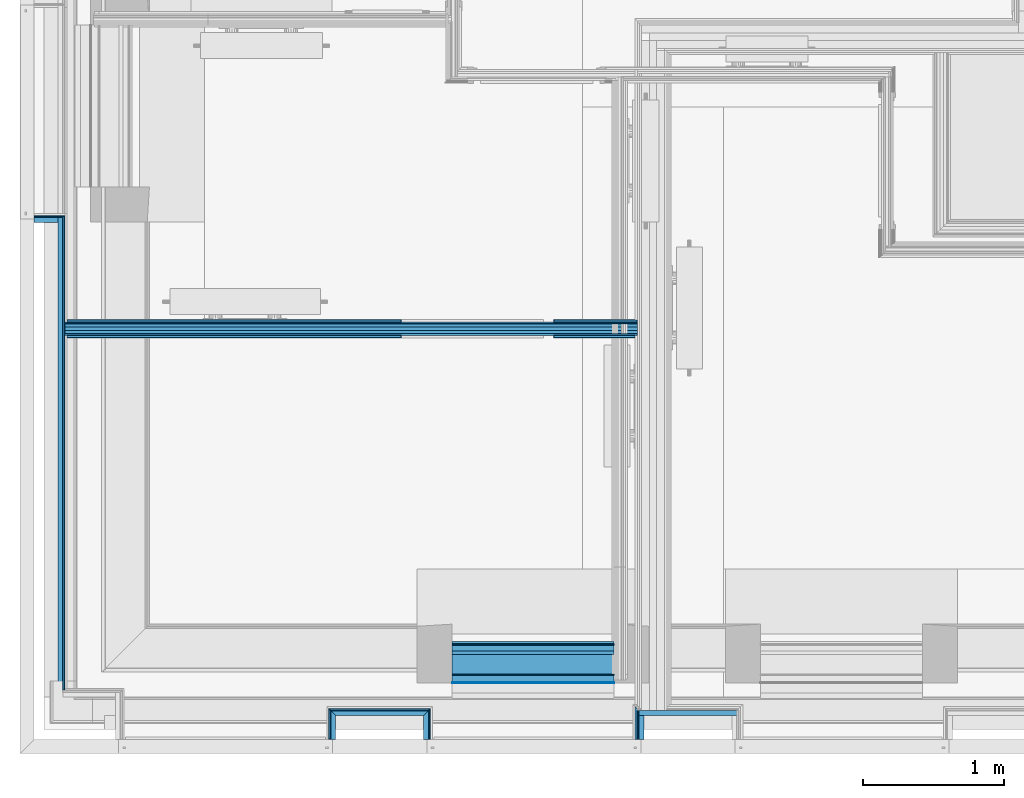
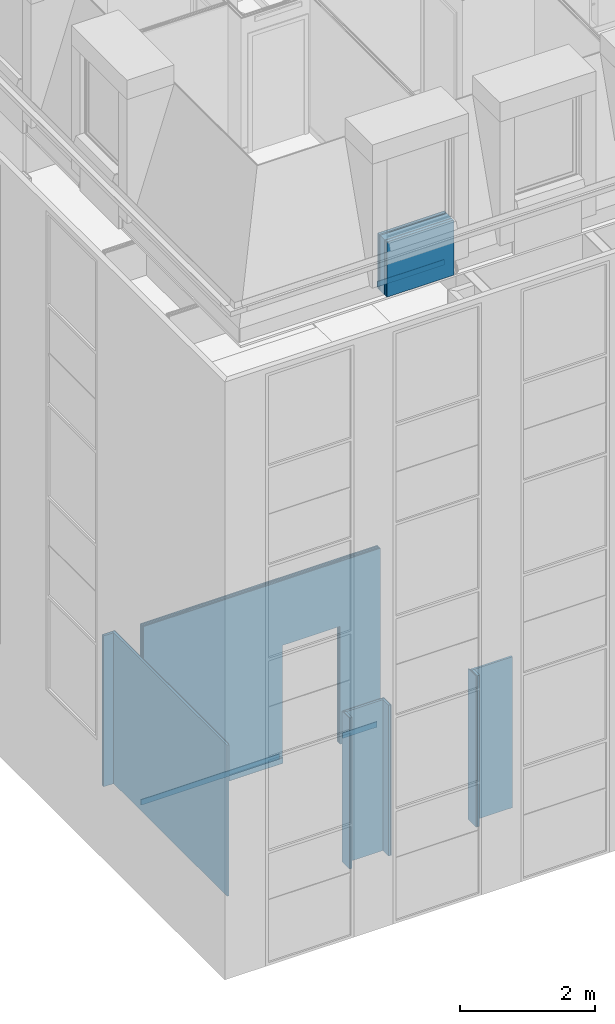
# One storey, part 13 of 169: 29 building element parts, 1 opening, 9 elements without a shape of their own.
"""IFC2X3 building model written with IfcOpenShell, lengths in metres."""

from ifc_helpers import new_model, entity, si_unit, converted_unit, derived_unit, money_unit, direction, frame, frame_2d, origin_with_axes, place, context, subcontext, project, spatial, polyline, rectangle, outline, extrude, material, type_object, element, aggregate, save


model = new_model("IFC2X3")

# Units and contexts
model_context = context("Model", 3, precision=1e-05, world=origin_with_axes(), true_north=direction((0.0, 1.0)))
body_context = subcontext(model_context, "Body", "Model", "MODEL_VIEW", scale=1.0)
ifc_project = project(units=[si_unit("LENGTHUNIT", "METRE"), si_unit("AREAUNIT", "SQUARE_METRE"), si_unit("VOLUMEUNIT", "CUBIC_METRE"), si_unit("ABSORBEDDOSEUNIT", "GRAY"), si_unit("AMOUNTOFSUBSTANCEUNIT", "MOLE"), si_unit("DOSEEQUIVALENTUNIT", "SIEVERT"), si_unit("ELECTRICCAPACITANCEUNIT", "FARAD"), si_unit("ELECTRICCHARGEUNIT", "COULOMB"), si_unit("ELECTRICCONDUCTANCEUNIT", "SIEMENS"), si_unit("ELECTRICCURRENTUNIT", "AMPERE"), si_unit("ELECTRICRESISTANCEUNIT", "OHM"), si_unit("ELECTRICVOLTAGEUNIT", "VOLT"), si_unit("ENERGYUNIT", "JOULE"), si_unit("FORCEUNIT", "NEWTON"), si_unit("FREQUENCYUNIT", "HERTZ"), si_unit("ILLUMINANCEUNIT", "LUX"), si_unit("INDUCTANCEUNIT", "HENRY"), si_unit("LUMINOUSFLUXUNIT", "LUMEN"), si_unit("LUMINOUSINTENSITYUNIT", "CANDELA"), si_unit("MAGNETICFLUXDENSITYUNIT", "TESLA"), si_unit("MAGNETICFLUXUNIT", "WEBER"), si_unit("MASSUNIT", "GRAM"), converted_unit("PLANEANGLEUNIT", "degree", entity("IfcReal", 0.0174532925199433), si_unit("PLANEANGLEUNIT", "RADIAN"), dimensions=[0, 0, 0, 0, 0, 0, 0]), si_unit("POWERUNIT", "WATT"), si_unit("PRESSUREUNIT", "PASCAL"), si_unit("RADIOACTIVITYUNIT", "BECQUEREL"), si_unit("SOLIDANGLEUNIT", "STERADIAN"), si_unit("THERMODYNAMICTEMPERATUREUNIT", "KELVIN"), si_unit("TIMEUNIT", "SECOND"), derived_unit("ACCELERATIONUNIT", [(si_unit("LENGTHUNIT", "METRE"), 1), (si_unit("TIMEUNIT", "SECOND"), -2)]), derived_unit("ANGULARVELOCITYUNIT", [(converted_unit("PLANEANGLEUNIT", "degree", entity("IfcReal", 0.0174532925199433), si_unit("PLANEANGLEUNIT", "RADIAN"), dimensions=[0, 0, 0, 0, 0, 0, 0]), 1), (si_unit("TIMEUNIT", "SECOND"), -1)]), derived_unit("CURVATUREUNIT", [(converted_unit("PLANEANGLEUNIT", "degree", entity("IfcReal", 0.0174532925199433), si_unit("PLANEANGLEUNIT", "RADIAN"), dimensions=[0, 0, 0, 0, 0, 0, 0]), 1), (si_unit("LENGTHUNIT", "METRE"), -1)]), derived_unit("DYNAMICVISCOSITYUNIT", [(si_unit("PRESSUREUNIT", "PASCAL"), 1), (si_unit("TIMEUNIT", "SECOND"), 1)]), derived_unit("HEATFLUXDENSITYUNIT", [(si_unit("POWERUNIT", "WATT"), 1), (si_unit("LENGTHUNIT", "METRE"), -2)]), derived_unit("HEATINGVALUEUNIT", [(si_unit("ENERGYUNIT", "JOULE"), 1), (si_unit("MASSUNIT", "GRAM"), -1)]), derived_unit("INTEGERCOUNTRATEUNIT", [(si_unit("TIMEUNIT", "SECOND"), -1)]), derived_unit("IONCONCENTRATIONUNIT", [(si_unit("MASSUNIT", "GRAM"), 1), (si_unit("VOLUMEUNIT", "CUBIC_METRE"), -1)]), derived_unit("ISOTHERMALMOISTURECAPACITYUNIT", [(si_unit("VOLUMEUNIT", "CUBIC_METRE"), 1), (si_unit("MASSUNIT", "GRAM"), -1)]), derived_unit("KINEMATICVISCOSITYUNIT", [(si_unit("AREAUNIT", "SQUARE_METRE"), 1), (si_unit("TIMEUNIT", "SECOND"), -1)]), derived_unit("LINEARFORCEUNIT", [(si_unit("FORCEUNIT", "NEWTON"), 1), (si_unit("LENGTHUNIT", "METRE"), -1)]), derived_unit("LINEARMOMENTUNIT", [(si_unit("FORCEUNIT", "NEWTON"), 1), (si_unit("LENGTHUNIT", "METRE"), -1)]), derived_unit("LINEARSTIFFNESSUNIT", [(si_unit("FORCEUNIT", "NEWTON"), 1), (si_unit("LENGTHUNIT", "METRE"), -1)]), derived_unit("LINEARVELOCITYUNIT", [(si_unit("LENGTHUNIT", "METRE"), 1), (si_unit("TIMEUNIT", "SECOND"), -1)]), derived_unit("LUMINOUSINTENSITYDISTRIBUTIONUNIT", [(si_unit("LUMINOUSINTENSITYUNIT", "CANDELA"), 1), (si_unit("LUMINOUSFLUXUNIT", "LUMEN"), -1)]), derived_unit("MASSDENSITYUNIT", [(si_unit("MASSUNIT", "GRAM"), 1), (si_unit("VOLUMEUNIT", "CUBIC_METRE"), -1)]), derived_unit("MASSFLOWRATEUNIT", [(si_unit("MASSUNIT", "GRAM"), 1), (si_unit("TIMEUNIT", "SECOND"), -1)]), derived_unit("MASSPERLENGTHUNIT", [(si_unit("MASSUNIT", "GRAM"), 1), (si_unit("LENGTHUNIT", "METRE"), -1)]), derived_unit("MODULUSOFELASTICITYUNIT", [(si_unit("FORCEUNIT", "NEWTON"), 1), (si_unit("AREAUNIT", "SQUARE_METRE"), -1)]), derived_unit("MODULUSOFLINEARSUBGRADEREACTIONUNIT", [(si_unit("FORCEUNIT", "NEWTON"), 1), (si_unit("LENGTHUNIT", "METRE"), -2)]), derived_unit("MODULUSOFROTATIONALSUBGRADEREACTIONUNIT", [(si_unit("FORCEUNIT", "NEWTON"), 1), (si_unit("LENGTHUNIT", "METRE"), 1)]), derived_unit("MODULUSOFSUBGRADEREACTIONUNIT", [(si_unit("FORCEUNIT", "NEWTON"), 1), (si_unit("VOLUMEUNIT", "CUBIC_METRE"), -1)]), derived_unit("MOISTUREDIFFUSIVITYUNIT", [(si_unit("VOLUMEUNIT", "CUBIC_METRE"), 1), (si_unit("TIMEUNIT", "SECOND"), -1)]), derived_unit("MOLECULARWEIGHTUNIT", [(si_unit("MASSUNIT", "GRAM"), 1), (si_unit("AMOUNTOFSUBSTANCEUNIT", "MOLE"), -1)]), derived_unit("PLANARFORCEUNIT", [(si_unit("FORCEUNIT", "NEWTON"), 1), (si_unit("LENGTHUNIT", "METRE"), -2)]), derived_unit("ROTATIONALFREQUENCYUNIT", [(si_unit("TIMEUNIT", "SECOND"), -1)]), derived_unit("ROTATIONALMASSUNIT", [(si_unit("MASSUNIT", "GRAM"), 1), (si_unit("LENGTHUNIT", "METRE"), 2)]), derived_unit("ROTATIONALSTIFFNESSUNIT", [(si_unit("FORCEUNIT", "NEWTON"), 1), (si_unit("LENGTHUNIT", "METRE"), 1), (converted_unit("PLANEANGLEUNIT", "degree", entity("IfcReal", 0.0174532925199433), si_unit("PLANEANGLEUNIT", "RADIAN"), dimensions=[0, 0, 0, 0, 0, 0, 0]), -1)]), derived_unit("SECTIONAREAINTEGRALUNIT", [(si_unit("LENGTHUNIT", "METRE"), 5)]), derived_unit("SECTIONMODULUSUNIT", [(si_unit("LENGTHUNIT", "METRE"), 3)]), derived_unit("SHEARMODULUSUNIT", [(si_unit("FORCEUNIT", "NEWTON"), 1), (si_unit("AREAUNIT", "SQUARE_METRE"), -1)]), derived_unit("SOUNDPOWERUNIT", [(si_unit("ENERGYUNIT", "JOULE"), 1), (si_unit("TIMEUNIT", "SECOND"), -1)]), derived_unit("SPECIFICHEATCAPACITYUNIT", [(si_unit("FORCEUNIT", "NEWTON"), 1), (si_unit("MASSUNIT", "GRAM"), -1), (si_unit("THERMODYNAMICTEMPERATUREUNIT", "KELVIN"), -1)]), derived_unit("TEMPERATUREGRADIENTUNIT", [(si_unit("THERMODYNAMICTEMPERATUREUNIT", "KELVIN"), 1), (si_unit("LENGTHUNIT", "METRE"), -1)]), derived_unit("THERMALADMITTANCEUNIT", [(si_unit("POWERUNIT", "WATT"), 1), (si_unit("AREAUNIT", "SQUARE_METRE"), -1), (si_unit("THERMODYNAMICTEMPERATUREUNIT", "KELVIN"), -1)]), derived_unit("THERMALCONDUCTANCEUNIT", [(si_unit("POWERUNIT", "WATT"), 1), (si_unit("LENGTHUNIT", "METRE"), -1), (si_unit("THERMODYNAMICTEMPERATUREUNIT", "KELVIN"), -1)]), derived_unit("THERMALEXPANSIONCOEFFICIENTUNIT", [(si_unit("THERMODYNAMICTEMPERATUREUNIT", "KELVIN"), -1)]), derived_unit("THERMALRESISTANCEUNIT", [(si_unit("AREAUNIT", "SQUARE_METRE"), 1), (si_unit("POWERUNIT", "WATT"), -1)]), derived_unit("THERMALTRANSMITTANCEUNIT", [(si_unit("POWERUNIT", "WATT"), 1), (si_unit("AREAUNIT", "SQUARE_METRE"), -1), (si_unit("THERMODYNAMICTEMPERATUREUNIT", "KELVIN"), -1)]), derived_unit("TORQUEUNIT", [(si_unit("FORCEUNIT", "NEWTON"), 1), (si_unit("LENGTHUNIT", "METRE"), 1)]), derived_unit("VAPORPERMEABILITYUNIT", [(si_unit("MASSUNIT", "GRAM"), 1), (si_unit("TIMEUNIT", "SECOND"), -1)]), derived_unit("VOLUMETRICFLOWRATEUNIT", [(si_unit("VOLUMEUNIT", "CUBIC_METRE"), 1), (si_unit("TIMEUNIT", "SECOND"), -1)]), derived_unit("WARPINGCONSTANTUNIT", [(si_unit("LENGTHUNIT", "METRE"), 6)]), derived_unit("WARPINGMOMENTUNIT", [(si_unit("FORCEUNIT", "NEWTON"), 1), (si_unit("LENGTHUNIT", "METRE"), 2)]), money_unit("GBP")], contexts=[model_context])

# Site, building, storey
site_placement = place(None, origin_with_axes())
site = spatial("IfcSite", under=ifc_project, at=site_placement, Name="Site", CompositionType="ELEMENT")
building_placement = place(site_placement, origin_with_axes())
building = spatial("IfcBuilding", under=site, at=building_placement, Name="Building01", CompositionType="ELEMENT")
storey_placement = place(building_placement, frame((0.0, 0.0, 5.15), z_axis=(0.0, 0.0, 1.0), x_axis=(1.0, 0.0, 0.0)))
storey = spatial("IfcBuildingStorey", under=building, at=storey_placement, Name="1F", CompositionType="ELEMENT", Elevation=5.15)

# Wall, building element parts
wall_type_1 = type_object("IfcWallType", Name="SHE_A-Walls_Type06d_ExternalWallInsulation_48mm", PredefinedType="NOTDEFINED")
wall_1_placement = place(storey_placement, frame((2.243, 0.1, 0.0), z_axis=(0.0, 0.0, 1.0), x_axis=(0.0, 1.0, 0.0)))
wall_1 = element("IfcWall", 1, at=wall_1_placement, inside=storey, type_object=wall_type_1, Name="6D", ObjectType="SHE_A-Walls_Type06d_ExternalWallInsulation_48mm")
ifc_material_1 = material(Name="A_BSUK_Insulation")
placement_1 = place(wall_1_placement, origin_with_axes())
building_element_part_1 = element("IfcBuildingElementPart", 2, at=placement_1, material=ifc_material_1, Name="1", context=body_context, shape_type="SweptSolid", body=[
    extrude(outline(polyline([(0.206, 0.036), (0.0, 0.036), (0.0, 0.0), (0.17, 0.0), (0.206, 0.036)])), origin_with_axes(), (0.0, 0.0, 1.0), 2.74),
])
ifc_material_2 = material(Name="A_BSUK_WallInternal_Finishes_Plasterboard")
building_element_part_2 = element("IfcBuildingElementPart", 3, at=placement_1, material=ifc_material_2, Name="2", context=body_context, shape_type="SweptSolid", body=[
    extrude(outline(polyline([(0.218, 0.048), (0.0, 0.048), (0.0, 0.035), (0.205, 0.035), (0.218, 0.048)])), origin_with_axes(), (0.0, 0.0, 1.0), 2.74),
])
aggregate(wall_1, [building_element_part_1, building_element_part_2])

wall_2_placement = place(storey_placement, frame((2.243, 0.27, 0.0), z_axis=(0.0, 0.0, 1.0), x_axis=(1.0, 0.0, 0.0)))
wall_2 = element("IfcWall", 4, at=wall_2_placement, inside=storey, type_object=wall_type_1, Name="6D", ObjectType="SHE_A-Walls_Type06d_ExternalWallInsulation_48mm")
placement_2 = place(wall_2_placement, origin_with_axes())
building_element_part_3 = element("IfcBuildingElementPart", 5, at=placement_2, material=ifc_material_1, Name="1", context=body_context, shape_type="SweptSolid", body=[
    extrude(outline(polyline([(0.66, 0.036), (-0.036, 0.036), (0.0, 0.0), (0.624, 0.0), (0.66, 0.036)])), origin_with_axes(), (0.0, 0.0, 1.0), 2.74),
])
building_element_part_4 = element("IfcBuildingElementPart", 6, at=placement_2, material=ifc_material_2, Name="2", context=body_context, shape_type="SweptSolid", body=[
    extrude(outline(polyline([(0.672, 0.048), (-0.048, 0.048), (-0.035, 0.035), (0.659, 0.035), (0.672, 0.048)])), origin_with_axes(), (0.0, 0.0, 1.0), 2.74),
])
aggregate(wall_2, [building_element_part_3, building_element_part_4])

wall_3_placement = place(storey_placement, frame((2.867, 0.27, 0.0), z_axis=(0.0, 0.0, 1.0), x_axis=(0.0, -1.0, 0.0)))
wall_3 = element("IfcWall", 7, at=wall_3_placement, inside=storey, type_object=wall_type_1, Name="6D", ObjectType="SHE_A-Walls_Type06d_ExternalWallInsulation_48mm")
placement_3 = place(wall_3_placement, origin_with_axes())
building_element_part_5 = element("IfcBuildingElementPart", 8, at=placement_3, material=ifc_material_1, Name="1", context=body_context, shape_type="SweptSolid", body=[
    extrude(outline(polyline([(-0.036, 0.036), (0.0, 0.0), (0.17, 0.0), (0.17, 0.036), (-0.036, 0.036)])), origin_with_axes(), (0.0, 0.0, 1.0), 2.74),
])
building_element_part_6 = element("IfcBuildingElementPart", 9, at=placement_3, material=ifc_material_2, Name="2", context=body_context, shape_type="SweptSolid", body=[
    extrude(outline(polyline([(-0.048, 0.048), (-0.035, 0.035), (0.17, 0.035), (0.17, 0.048), (-0.048, 0.048)])), origin_with_axes(), (0.0, 0.0, 1.0), 2.74),
])
aggregate(wall_3, [building_element_part_5, building_element_part_6])

# Wall, opening, building element parts
wall_type_2 = type_object("IfcWallType", Name="SHE_A-Walls_Type05a_Partition_95mm_tall", PredefinedType="NOTDEFINED")
wall_4_placement = place(storey_placement, frame((0.318, 3.030286, 0.0), z_axis=(0.0, 0.0, 1.0), x_axis=(1.0, 0.0, 0.0)))
wall_4 = element("IfcWall", 10, at=wall_4_placement, inside=storey, type_object=wall_type_2, Name="5A", ObjectType="SHE_A-Walls_Type05a_Partition_95mm_tall")
opening_placement = place(wall_4_placement, frame((2.391, -0.075, -0.03), z_axis=(0.0, 0.0, 1.0), x_axis=(1.0, 0.0, 0.0)))
element("IfcOpeningElement", 11, at=opening_placement, cuts=wall_4, Name="Opening", ObjectType="Opening", context=body_context, shape_type="SweptSolid", body=[
    extrude(outline(polyline([(-0.984, 0.0), (-0.099, 0.0), (-0.099, 0.03), (0.0, 0.03), (0.0, 2.172), (-0.984, 2.172), (-0.984, 0.0)])), frame((0.0, 0.0, 0.0), z_axis=(0.0, 1.0, 0.0), x_axis=(-1.0, 0.0, 0.0)), (0.0, 0.0, 1.0), 0.125),
    extrude(rectangle(XDim=0.984, YDim=2.172, at=frame_2d((-0.492, 1.086), x_axis=(1.0, 0.0))), frame((0.0, 0.015, 0.0), z_axis=(0.0, 1.0, 0.0), x_axis=(-1.0, 0.0, 0.0)), (0.0, 0.0, 1.0), 0.012),
    extrude(outline(polyline([(-0.099, 0.03), (0.0, 0.03), (0.0, 2.172), (-0.984, 2.172), (-0.984, 2.142), (-1.083, 2.142), (-1.083, 0.0), (-0.099, 0.0), (-0.099, 0.03)])), frame((0.0, 0.0, 0.0), z_axis=(0.0, 1.0, 0.0), x_axis=(-1.0, 0.0, 0.0)), (0.0, 0.0, 1.0), 0.015),
    extrude(rectangle(XDim=0.984, YDim=2.172, at=frame_2d((-0.492, 1.086), x_axis=(1.0, 0.0))), frame((0.0, 0.027, 0.0), z_axis=(0.0, 1.0, 0.0), x_axis=(-1.0, 0.0, 0.0)), (0.0, 0.0, 1.0), 0.023),
    extrude(outline(polyline([(-0.984, 0.0), (-0.042, 0.0), (-0.042, 0.03), (0.0, 0.03), (0.0, 2.172), (-0.984, 2.172), (-0.984, 0.0)])), frame((0.0, 0.05, 0.0), z_axis=(0.0, 1.0, 0.0), x_axis=(-1.0, 0.0, 0.0)), (0.0, 0.0, 1.0), 0.025),
    extrude(outline(polyline([(-0.984, 0.0), (-0.042, 0.0), (-0.042, 0.03), (0.0, 0.03), (0.0, 2.172), (-0.984, 2.172), (-0.984, 0.0)])), frame((0.0, 0.075, 0.0), z_axis=(0.0, 1.0, 0.0), x_axis=(-1.0, 0.0, 0.0)), (0.0, 0.0, 1.0), 0.023),
    extrude(outline(polyline([(-0.984, 0.0), (-0.042, 0.0), (-0.042, 0.03), (0.0, 0.03), (0.0, 2.172), (-0.984, 2.172), (-0.984, 0.0)])), frame((0.0, 0.098, 0.0), z_axis=(0.0, 1.0, 0.0), x_axis=(-1.0, 0.0, 0.0)), (0.0, 0.0, 1.0), 0.012),
    extrude(outline(polyline([(-0.099, 0.03), (0.0, 0.03), (0.0, 2.172), (-0.984, 2.172), (-0.984, 2.142), (-1.083, 2.142), (-1.083, 0.0), (-0.099, 0.0), (-0.099, 0.03)])), frame((0.0, 0.11, 0.0), z_axis=(0.0, 1.0, 0.0), x_axis=(-1.0, 0.0, 0.0)), (0.0, 0.0, 1.0), 0.015),
])
ifc_material_3 = material(Name="A_BSUK_Walls_Timber")
placement_4 = place(wall_4_placement, origin_with_axes())
building_element_part_7 = element("IfcBuildingElementPart", 12, at=placement_4, material=ifc_material_3, Name="1", context=body_context, shape_type="SweptSolid", body=[
    extrude(rectangle(XDim=4.037, YDim=0.015, at=frame_2d((2.0335, -0.0675), x_axis=(-1.0, 0.0))), frame((0.0, 0.0, 0.015), z_axis=(0.0, 0.0, 1.0), x_axis=(1.0, 0.0, 0.0)), (0.0, 0.0, 1.0), 0.1),
])
building_element_part_8 = element("IfcBuildingElementPart", 13, at=placement_4, material=ifc_material_2, Name="2", context=body_context, shape_type="SweptSolid", body=[
    extrude(rectangle(XDim=4.067, YDim=0.012, at=frame_2d((2.0335, -0.054), x_axis=(-1.0, 0.0))), origin_with_axes(), (0.0, 0.0, 1.0), 3.32),
])
ifc_material_4 = material(Name="Air Cavity")
building_element_part_9 = element("IfcBuildingElementPart", 14, at=placement_4, material=ifc_material_4, Name="3", context=body_context, shape_type="SweptSolid", body=[
    extrude(rectangle(XDim=4.067, YDim=0.023, at=frame_2d((2.0335, -0.0365), x_axis=(-1.0, 0.0))), origin_with_axes(), (0.0, 0.0, 1.0), 3.32),
])
building_element_part_10 = element("IfcBuildingElementPart", 15, at=placement_4, material=ifc_material_1, Name="4", context=body_context, shape_type="SweptSolid", body=[
    extrude(rectangle(XDim=4.067, YDim=0.025, at=frame_2d((2.0335, -0.0125), x_axis=(-1.0, 0.0))), origin_with_axes(), (0.0, 0.0, 1.0), 3.32),
])
building_element_part_11 = element("IfcBuildingElementPart", 16, at=placement_4, material=ifc_material_4, Name="5", context=body_context, shape_type="SweptSolid", body=[
    extrude(rectangle(XDim=4.067, YDim=0.023, at=frame_2d((2.0335, 0.0115), x_axis=(-1.0, 0.0))), origin_with_axes(), (0.0, 0.0, 1.0), 3.32),
])
building_element_part_12 = element("IfcBuildingElementPart", 17, at=placement_4, material=ifc_material_2, Name="6", context=body_context, shape_type="SweptSolid", body=[
    extrude(rectangle(XDim=4.067, YDim=0.012, at=frame_2d((2.0335, 0.029), x_axis=(-1.0, 0.0))), origin_with_axes(), (0.0, 0.0, 1.0), 3.32),
])
building_element_part_13 = element("IfcBuildingElementPart", 18, at=placement_4, material=ifc_material_3, Name="7", context=body_context, shape_type="SweptSolid", body=[
    extrude(rectangle(XDim=4.052, YDim=0.015, at=frame_2d((2.041, 0.0425), x_axis=(-1.0, 0.0))), frame((0.0, 0.0, 0.015), z_axis=(0.0, 0.0, 1.0), x_axis=(1.0, 0.0, 0.0)), (0.0, 0.0, 1.0), 0.1),
])
aggregate(wall_4, [building_element_part_7, building_element_part_8, building_element_part_9, building_element_part_10, building_element_part_11, building_element_part_12, building_element_part_13])

# Wall, building element parts
wall_type_3 = type_object("IfcWallType", Name="SHE_A-Walls_Type06f_ExternalWallInsulation_48+15mm", PredefinedType="NOTDEFINED")
wall_5_placement = place(storey_placement, frame((4.433, 0.1, 0.0), z_axis=(0.0, 0.0, 1.0), x_axis=(0.0, 1.0, 0.0)))
wall_5 = element("IfcWall", 19, at=wall_5_placement, inside=storey, type_object=wall_type_3, Name="6F", ObjectType="SHE_A-Walls_Type06f_ExternalWallInsulation_48+15mm")
placement_5 = place(wall_5_placement, origin_with_axes())
building_element_part_14 = element("IfcBuildingElementPart", 20, at=placement_5, material=ifc_material_1, Name="1", context=body_context, shape_type="SweptSolid", body=[
    extrude(rectangle(XDim=0.17, YDim=0.036, at=frame_2d((0.085, 0.018), x_axis=(-1.0, 0.0))), origin_with_axes(), (0.0, 0.0, 1.0), 2.74),
])
building_element_part_15 = element("IfcBuildingElementPart", 21, at=placement_5, material=ifc_material_2, Name="2", context=body_context, shape_type="SweptSolid", body=[
    extrude(rectangle(XDim=0.206, YDim=0.012, at=frame_2d((0.103, 0.042), x_axis=(-1.0, 0.0))), origin_with_axes(), (0.0, 0.0, 1.0), 2.74),
])
building_element_part_16 = element("IfcBuildingElementPart", 22, at=placement_5, material=ifc_material_2, Name="3", context=body_context, shape_type="SweptSolid", body=[
    extrude(outline(polyline([(0.233, 0.063), (0.0, 0.063), (0.0, 0.048), (0.218, 0.048), (0.233, 0.063)])), origin_with_axes(), (0.0, 0.0, 1.0), 2.74),
])
aggregate(wall_5, [building_element_part_14, building_element_part_15, building_element_part_16])

# Wall, building element part
wall_6_placement = place(storey_placement, frame((4.397, 0.27, 0.0), z_axis=(0.0, 0.0, 1.0), x_axis=(1.0, 0.0, 0.0)))
wall_6 = element("IfcWall", 23, at=wall_6_placement, inside=storey, type_object=wall_type_3, Name="6F", ObjectType="SHE_A-Walls_Type06f_ExternalWallInsulation_48+15mm")
building_element_part_17_placement = place(wall_6_placement, origin_with_axes())
building_element_part_17 = element("IfcBuildingElementPart", 24, at=building_element_part_17_placement, material=ifc_material_1, Name="1", context=body_context, shape_type="SweptSolid", body=[
    extrude(rectangle(XDim=0.696, YDim=0.036, at=frame_2d((0.348, 0.018), x_axis=(-1.0, 0.0))), origin_with_axes(), (0.0, 0.0, 1.0), 2.74),
])
aggregate(wall_6, [building_element_part_17])

# Wall, building element parts
wall_7_placement = place(storey_placement, frame((0.27, 3.77418, 0.0), z_axis=(0.0, 0.0, 1.0), x_axis=(-1.0, 0.0, 0.0)))
wall_7 = element("IfcWall", 25, at=wall_7_placement, inside=storey, type_object=wall_type_1, Name="6D", ObjectType="SHE_A-Walls_Type06d_ExternalWallInsulation_48mm")
placement_6 = place(wall_7_placement, origin_with_axes())
building_element_part_18 = element("IfcBuildingElementPart", 26, at=placement_6, material=ifc_material_2, Name="2", context=body_context, shape_type="SweptSolid", body=[
    extrude(outline(polyline([(-0.035, -0.035), (-0.048, -0.048), (0.17, -0.048), (0.17, -0.035), (-0.035, -0.035)])), origin_with_axes(), (0.0, 0.0, 1.0), 2.74),
])
building_element_part_19 = element("IfcBuildingElementPart", 27, at=placement_6, material=ifc_material_1, Name="3", context=body_context, shape_type="SweptSolid", body=[
    extrude(rectangle(XDim=0.036, YDim=0.17, at=frame_2d((0.085, -0.018), x_axis=(0.0, -1.0))), origin_with_axes(), (0.0, 0.0, 1.0), 2.74),
])
aggregate(wall_7, [building_element_part_18, building_element_part_19])

wall_8_placement = place(storey_placement, frame((0.27, 3.81018, 0.0), z_axis=(0.0, 0.0, 1.0), x_axis=(0.0, -1.0, 0.0)))
wall_8 = element("IfcWall", 28, at=wall_8_placement, inside=storey, type_object=wall_type_1, Name="6D", ObjectType="SHE_A-Walls_Type06d_ExternalWallInsulation_48mm")
placement_7 = place(wall_8_placement, origin_with_axes())
building_element_part_20 = element("IfcBuildingElementPart", 29, at=placement_7, material=ifc_material_1, Name="1", context=body_context, shape_type="SweptSolid", body=[
    extrude(rectangle(XDim=3.41018, YDim=0.036, at=frame_2d((1.70509, 0.018), x_axis=(-1.0, 0.0))), origin_with_axes(), (0.0, 0.0, 1.0), 2.74),
])
building_element_part_21 = element("IfcBuildingElementPart", 30, at=placement_7, material=ifc_material_2, Name="2", context=body_context, shape_type="SweptSolid", body=[
    extrude(outline(polyline([(3.36218, 0.048), (-0.012, 0.048), (0.001, 0.035), (3.36218, 0.035), (3.36218, 0.048)])), origin_with_axes(), (0.0, 0.0, 1.0), 2.74),
])
aggregate(wall_8, [building_element_part_20, building_element_part_21])

wall_type_4 = type_object("IfcWallType", Name="SHE_A-Walls_Type06e_ExternalWallPenthouse_280mm", PredefinedType="NOTDEFINED")
wall_9_placement = place(storey_placement, frame((4.219976, 0.565, 9.83), z_axis=(0.0, 0.0, 1.0), x_axis=(-1.0, 0.0, 0.0)))
wall_9 = element("IfcWall", 31, at=wall_9_placement, inside=storey, type_object=wall_type_4, Name="6E", ObjectType="SHE_A-Walls_Type06e_ExternalWallPenthouse_280mm")
placement_8 = place(wall_9_placement, origin_with_axes())
building_element_part_22 = element("IfcBuildingElementPart", 32, at=placement_8, material=ifc_material_3, Name="1", context=body_context, shape_type="SweptSolid", body=[
    extrude(rectangle(XDim=1.149951, YDim=0.015, at=frame_2d((0.574976, -0.2225), x_axis=(-1.0, 0.0))), frame((0.0, 0.0, 0.015), z_axis=(0.0, 0.0, 1.0), x_axis=(1.0, 0.0, 0.0)), (0.0, 0.0, 1.0), 0.1),
])
building_element_part_23 = element("IfcBuildingElementPart", 33, at=placement_8, material=ifc_material_2, Name="2", context=body_context, shape_type="SweptSolid", body=[
    extrude(rectangle(XDim=1.149951, YDim=0.01, at=frame_2d((0.574976, -0.21), x_axis=(-1.0, 0.0))), origin_with_axes(), (0.0, 0.0, 1.0), 1.0),
])
building_element_part_24 = element("IfcBuildingElementPart", 34, at=placement_8, material=ifc_material_1, Name="3", context=body_context, shape_type="SweptSolid", body=[
    extrude(rectangle(XDim=1.149951, YDim=0.04, at=frame_2d((0.574976, -0.185), x_axis=(-1.0, 0.0))), origin_with_axes(), (0.0, 0.0, 1.0), 1.0),
])
building_element_part_25 = element("IfcBuildingElementPart", 35, at=placement_8, material=ifc_material_4, Name="4", context=body_context, shape_type="SweptSolid", body=[
    extrude(rectangle(XDim=1.149951, YDim=0.025, at=frame_2d((0.574976, -0.1525), x_axis=(-1.0, 0.0))), origin_with_axes(), (0.0, 0.0, 1.0), 1.0),
])
building_element_part_26 = element("IfcBuildingElementPart", 36, at=placement_8, material=ifc_material_1, Name="5", context=body_context, shape_type="SweptSolid", body=[
    extrude(rectangle(XDim=1.149951, YDim=0.14, at=frame_2d((0.574976, -0.07), x_axis=(-1.0, 0.0))), origin_with_axes(), (0.0, 0.0, 1.0), 1.0),
])
building_element_part_27 = element("IfcBuildingElementPart", 37, at=placement_8, material=ifc_material_3, Name="6", context=body_context, shape_type="SweptSolid", body=[
    extrude(rectangle(XDim=1.149951, YDim=0.01, at=frame_2d((0.574976, 0.005), x_axis=(-1.0, 0.0))), origin_with_axes(), (0.0, 0.0, 1.0), 1.0),
])
building_element_part_28 = element("IfcBuildingElementPart", 38, at=placement_8, material=ifc_material_4, Name="7", context=body_context, shape_type="SweptSolid", body=[
    extrude(rectangle(XDim=1.149951, YDim=0.05, at=frame_2d((0.574976, 0.035), x_axis=(-1.0, 0.0))), origin_with_axes(), (0.0, 0.0, 1.0), 1.0),
])
ifc_material_5 = material(Name="A_BSUK_WallInternal_Finishes_Metal")
building_element_part_29 = element("IfcBuildingElementPart", 39, at=placement_8, material=ifc_material_5, Name="8", context=body_context, shape_type="SweptSolid", body=[
    extrude(rectangle(XDim=1.149951, YDim=0.005, at=frame_2d((0.574976, 0.0625), x_axis=(-1.0, 0.0))), origin_with_axes(), (0.0, 0.0, 1.0), 1.0),
])
aggregate(wall_9, [building_element_part_22, building_element_part_23, building_element_part_24, building_element_part_25, building_element_part_26, building_element_part_27, building_element_part_28, building_element_part_29])

save(model, "model.ifc")
